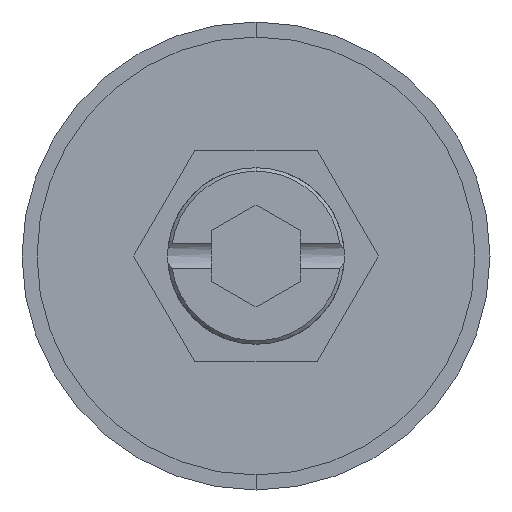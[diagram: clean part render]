
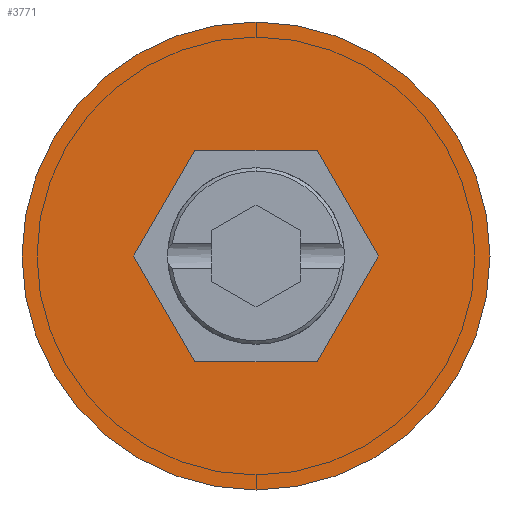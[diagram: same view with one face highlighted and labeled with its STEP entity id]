
A CAD part, front view. The second image highlights one B-rep face of the part: STEP entity #3771.
In plain terms, the highlighted planar face has unit normal (0, -1, 0).
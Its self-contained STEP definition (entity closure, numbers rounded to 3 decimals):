
#17 = VERTEX_POINT ( 'NONE', #908 ) ;
#282 = VERTEX_POINT ( 'NONE', #1293 ) ;
#481 = ORIENTED_EDGE ( 'NONE', *, *, #957, .F. ) ;
#604 = LINE ( 'NONE', #752, #2752 ) ;
#607 = ORIENTED_EDGE ( 'NONE', *, *, #2850, .T. ) ;
#615 = PLANE ( 'NONE',  #987 ) ;
#711 = VERTEX_POINT ( 'NONE', #1292 ) ;
#752 = CARTESIAN_POINT ( 'NONE',  ( -3.464, 0., -6. ) ) ;
#833 = AXIS2_PLACEMENT_3D ( 'NONE', #4094, #1647, #4524 ) ;
#885 = EDGE_LOOP ( 'NONE', ( #3805, #2725, #481, #2391, #3656, #1554 ) ) ;
#908 = CARTESIAN_POINT ( 'NONE',  ( 0., 0., -13.25 ) ) ;
#930 = DIRECTION ( 'NONE',  ( 0., -1., 0. ) ) ;
#957 = EDGE_CURVE ( 'NONE', #711, #282, #3200, .T. ) ;
#987 = AXIS2_PLACEMENT_3D ( 'NONE', #1411, #4268, #1830 ) ;
#1031 = DIRECTION ( 'NONE',  ( 0.5, 0., 0.866 ) ) ;
#1105 = CARTESIAN_POINT ( 'NONE',  ( 3.464, 0., 6. ) ) ;
#1157 = VECTOR ( 'NONE', #4320, 1000. ) ;
#1291 = CIRCLE ( 'NONE', #4243, 13.25 ) ;
#1292 = CARTESIAN_POINT ( 'NONE',  ( -3.464, 0., 6. ) ) ;
#1293 = CARTESIAN_POINT ( 'NONE',  ( -6.928, 0., 0. ) ) ;
#1411 = CARTESIAN_POINT ( 'NONE',  ( 0., 0., 0. ) ) ;
#1554 = ORIENTED_EDGE ( 'NONE', *, *, #5241, .F. ) ;
#1562 = DIRECTION ( 'NONE',  ( 0.5, 0., -0.866 ) ) ;
#1611 = ORIENTED_EDGE ( 'NONE', *, *, #4917, .T. ) ;
#1647 = DIRECTION ( 'NONE',  ( 0., -1., 0. ) ) ;
#1711 = EDGE_CURVE ( 'NONE', #282, #4727, #4946, .T. ) ;
#1820 = FACE_OUTER_BOUND ( 'NONE', #4407, .T. ) ;
#1825 = CIRCLE ( 'NONE', #833, 13.25 ) ;
#1830 = DIRECTION ( 'NONE',  ( 0., 0., -1. ) ) ;
#1879 = CARTESIAN_POINT ( 'NONE',  ( -6.928, 0., 0. ) ) ;
#1914 = DIRECTION ( 'NONE',  ( -1., 0., 0. ) ) ;
#1931 = EDGE_CURVE ( 'NONE', #3937, #2091, #3311, .T. ) ;
#2091 = VERTEX_POINT ( 'NONE', #1105 ) ;
#2286 = VERTEX_POINT ( 'NONE', #2630 ) ;
#2391 = ORIENTED_EDGE ( 'NONE', *, *, #4512, .F. ) ;
#2630 = CARTESIAN_POINT ( 'NONE',  ( 3.464, 0., -6. ) ) ;
#2688 = CARTESIAN_POINT ( 'NONE',  ( 6.928, 0., 0. ) ) ;
#2725 = ORIENTED_EDGE ( 'NONE', *, *, #1711, .F. ) ;
#2752 = VECTOR ( 'NONE', #5225, 1000. ) ;
#2850 = EDGE_CURVE ( 'NONE', #17, #3746, #1825, .T. ) ;
#2883 = FACE_BOUND ( 'NONE', #885, .T. ) ;
#3200 = LINE ( 'NONE', #4610, #4150 ) ;
#3311 = LINE ( 'NONE', #2688, #1157 ) ;
#3327 = CARTESIAN_POINT ( 'NONE',  ( -3.464, 0., -6. ) ) ;
#3358 = CARTESIAN_POINT ( 'NONE',  ( 0., 0., 0. ) ) ;
#3517 = LINE ( 'NONE', #3867, #4622 ) ;
#3656 = ORIENTED_EDGE ( 'NONE', *, *, #1931, .F. ) ;
#3746 = VERTEX_POINT ( 'NONE', #4250 ) ;
#3761 = DIRECTION ( 'NONE',  ( 0., 0., -1. ) ) ;
#3771 = ADVANCED_FACE ( 'NONE', ( #2883, #1820 ), #615, .T. ) ;
#3805 = ORIENTED_EDGE ( 'NONE', *, *, #4574, .F. ) ;
#3816 = VECTOR ( 'NONE', #1562, 1000. ) ;
#3867 = CARTESIAN_POINT ( 'NONE',  ( 3.464, 0., -6. ) ) ;
#3937 = VERTEX_POINT ( 'NONE', #4285 ) ;
#4094 = CARTESIAN_POINT ( 'NONE',  ( 0., 0., 0. ) ) ;
#4101 = VECTOR ( 'NONE', #1914, 1000. ) ;
#4150 = VECTOR ( 'NONE', #4627, 1000. ) ;
#4243 = AXIS2_PLACEMENT_3D ( 'NONE', #3358, #930, #3761 ) ;
#4250 = CARTESIAN_POINT ( 'NONE',  ( 0., 0., 13.25 ) ) ;
#4268 = DIRECTION ( 'NONE',  ( 0., -1., 0. ) ) ;
#4285 = CARTESIAN_POINT ( 'NONE',  ( 6.928, 0., 0. ) ) ;
#4320 = DIRECTION ( 'NONE',  ( -0.5, 0., 0.866 ) ) ;
#4407 = EDGE_LOOP ( 'NONE', ( #607, #1611 ) ) ;
#4512 = EDGE_CURVE ( 'NONE', #2091, #711, #5222, .T. ) ;
#4524 = DIRECTION ( 'NONE',  ( 0., 0., -1. ) ) ;
#4574 = EDGE_CURVE ( 'NONE', #4727, #2286, #604, .T. ) ;
#4610 = CARTESIAN_POINT ( 'NONE',  ( -3.464, 0., 6. ) ) ;
#4622 = VECTOR ( 'NONE', #1031, 1000. ) ;
#4627 = DIRECTION ( 'NONE',  ( -0.5, 0., -0.866 ) ) ;
#4727 = VERTEX_POINT ( 'NONE', #3327 ) ;
#4786 = CARTESIAN_POINT ( 'NONE',  ( 3.464, 0., 6. ) ) ;
#4917 = EDGE_CURVE ( 'NONE', #3746, #17, #1291, .T. ) ;
#4946 = LINE ( 'NONE', #1879, #3816 ) ;
#5222 = LINE ( 'NONE', #4786, #4101 ) ;
#5225 = DIRECTION ( 'NONE',  ( 1., 0., 0. ) ) ;
#5241 = EDGE_CURVE ( 'NONE', #2286, #3937, #3517, .T. ) ;
